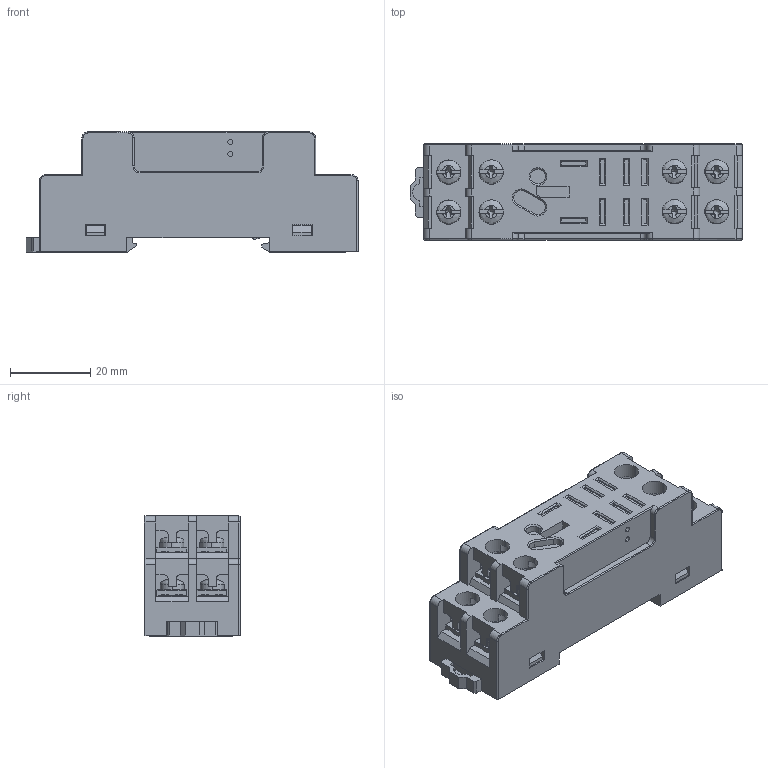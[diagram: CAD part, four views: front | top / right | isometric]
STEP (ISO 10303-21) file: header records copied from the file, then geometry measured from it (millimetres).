
FILE_DESCRIPTION (( 'STEP AP203' ), '1' );
FILE_NAME ('STB08-E 俋倛.STEP', '2023-01-12T09:14:42', ( '' ), ( '' ), 'SwSTEP 2.0', 'SolidWorks 2018', '' );
FILE_SCHEMA (( 'CONFIG_CONTROL_DESIGN' ));
Length unit declared in the file: millimetre
Products named in the file (1): STB08-E 俋倛
Bounding box: 83 x 24 x 30 mm (x, y, z)
Volume: 41301.4 mm3; surface area: 16194.2 mm2
Topology: 1 solids, 9 shells, 1354 faces, 3787 edges, 2442 vertices
Faces by surface type: plane 984, cylinder 203, cone 109, bspline 40, torus 18
Entity records: 52576 total; most frequent: CARTESIAN_POINT 18381, ORIENTED_EDGE 7542, DIRECTION 6540, EDGE_CURVE 3771, VECTOR 2592, LINE 2592, VERTEX_POINT 2442, AXIS2_PLACEMENT_3D 1974
